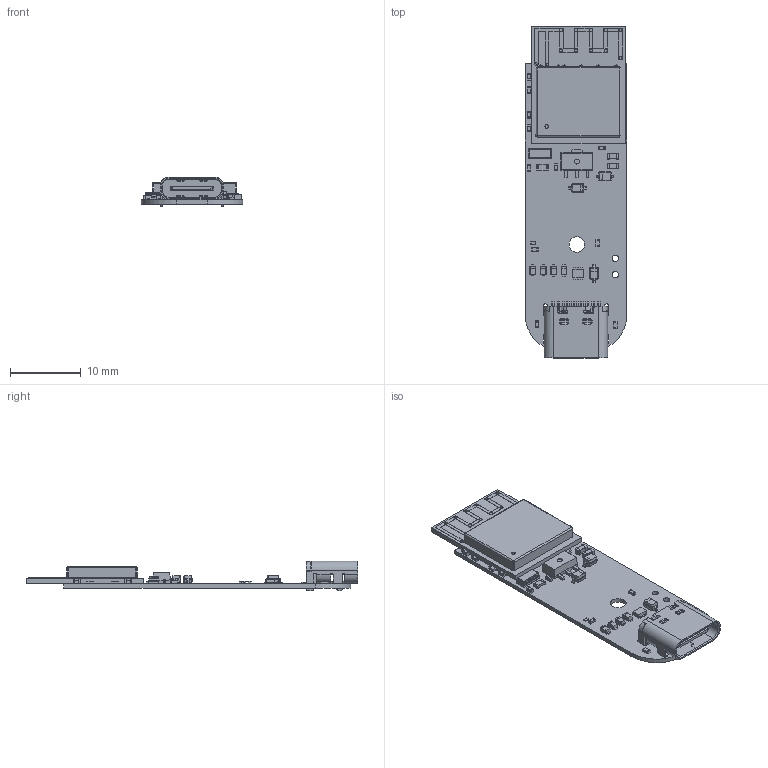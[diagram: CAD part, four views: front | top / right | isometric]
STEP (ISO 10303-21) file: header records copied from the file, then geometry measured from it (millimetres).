
FILE_DESCRIPTION(('KiCad electronic assembly'),'2;1');
FILE_NAME('dronescout_wlan_ble_board.step','2024-11-13T11:50:33',( 'Pcbnew'),('Kicad'),'Open CASCADE STEP processor 7.8', 'KiCad to STEP converter','Unknown');
FILE_SCHEMA(('AUTOMOTIVE_DESIGN { 1 0 10303 214 1 1 1 1 }'));
Length unit declared in the file: millimetre
Products named in the file (29): dronescout_wlan_ble_board 1; SOT-666; SOT_666; SOT-89-3; CQ assembly; C_0402_1005Metric; R_0402_1005Metric; ESP32-C3-MINI-1; D_SOD-523; D_SOD_523; D_SOD-323; D_SOD_323; C_0603_1608Metric; LED_0201_0603Metric; Crystal_SMD_3215-2Pin_3.2x1.5mm; R_0603_1608Metric; HRO_TYPE-C-31-M-12; ConPins; PcbPins; Mold; Frame; dronescout_wlan_ble_board_PCB
Assembly tree (43 placements, depth 3):
  dronescout_wlan_ble_board 1
    SOT-666
      SOT_666
    SOT-89-3
      CQ assembly
    C_0402_1005Metric  x4
      C_0402_1005Metric
    R_0402_1005Metric  x7
      R_0402_1005Metric
    ESP32-C3-MINI-1
      ESP32-C3-MINI-1
    D_SOD-523  x4
      D_SOD_523
    D_SOD-323  x3
      D_SOD_323
    C_0603_1608Metric  x2
      C_0603_1608Metric
    LED_0201_0603Metric
      LED_0201_0603Metric
    Crystal_SMD_3215-2Pin_3.2x1.5mm
      Crystal_SMD_3215-2Pin_3.2x1.5mm
    R_0603_1608Metric
      R_0603_1608Metric
    HRO_TYPE-C-31-M-12
      ConPins
      PcbPins
      Mold
      Frame
    dronescout_wlan_ble_board_PCB
Bounding box: 14.3 x 46.83 x 4.2 mm (x, y, z)
Volume: 687.2 mm3; surface area: 3176.1 mm2
Topology: 386 solids, 387 shells, 4640 faces, 10568 edges, 6640 vertices
Faces by surface type: plane 2858, cylinder 1380, bspline 186, sphere 144, torus 66, cone 6
Full cylindrical faces by diameter (mm): 0.5 x2, 0.65 x2, 0.7 x1, 0.9 x2, 2.2 x1
Entity records: 123788 total; most frequent: CARTESIAN_POINT 23789, DIRECTION 19856, ORIENTED_EDGE 18472, EDGE_CURVE 9236, AXIS2_PLACEMENT_3D 6723, LINE 6410, VECTOR 6410, VERTEX_POINT 5892
